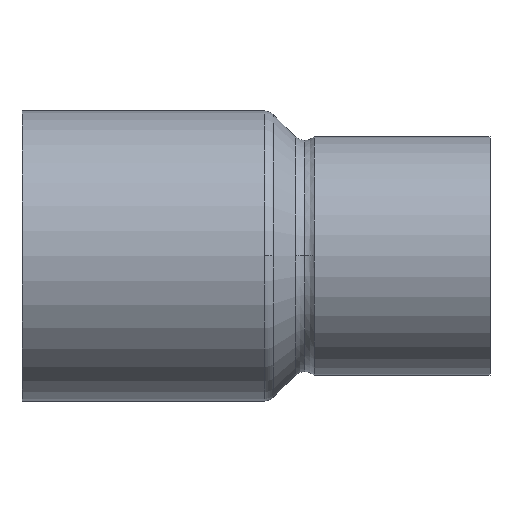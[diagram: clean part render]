
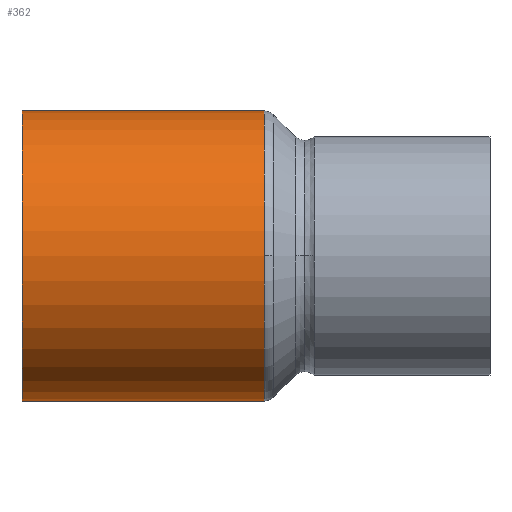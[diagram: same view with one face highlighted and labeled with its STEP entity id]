
A CAD part, top view. The second image highlights one B-rep face of the part: STEP entity #362.
In plain terms, the highlighted cylindrical face has radius 11 mm (diameter 22 mm), a partial arc.
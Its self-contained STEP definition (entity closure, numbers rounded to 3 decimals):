
#312=CARTESIAN_POINT('',(9.187,0.0,0.0));
#313=DIRECTION('',(1.0,0.0,0.0));
#314=DIRECTION('',(0.0,1.0,0.0));
#315=AXIS2_PLACEMENT_3D('',#312,#313,#314);
#316=CYLINDRICAL_SURFACE('',#315,11.0);
#317=CARTESIAN_POINT('',(0.,11.0,0.0));
#318=VERTEX_POINT('',#317);
#319=CARTESIAN_POINT('',(18.373,11.,0.0));
#320=VERTEX_POINT('',#319);
#321=CARTESIAN_POINT('',(0.,11.0,0.0));
#322=DIRECTION('',(1.0,0.0,0.0));
#323=VECTOR('',#322,18.373);
#324=LINE('',#321,#323);
#325=EDGE_CURVE('',#318,#320,#324,.T.);
#326=ORIENTED_EDGE('',*,*,#325,.F.);
#327=CARTESIAN_POINT('',(0.0,-11.0,0.));
#328=VERTEX_POINT('',#327);
#329=CARTESIAN_POINT('',(0.,0.0,0.0));
#330=DIRECTION('',(1.0,0.0,0.0));
#331=DIRECTION('',(0.0,1.0,0.0));
#332=AXIS2_PLACEMENT_3D('',#329,#330,#331);
#333=CIRCLE('',#332,11.0);
#334=EDGE_CURVE('',#318,#328,#333,.T.);
#335=ORIENTED_EDGE('',*,*,#334,.T.);
#336=CARTESIAN_POINT('',(18.373,-11.,0.));
#337=VERTEX_POINT('',#336);
#338=CARTESIAN_POINT('',(18.373,-11.,0.));
#339=DIRECTION('',(-1.0,0.0,0.0));
#340=VECTOR('',#339,18.373);
#341=LINE('',#338,#340);
#342=EDGE_CURVE('',#337,#328,#341,.T.);
#343=ORIENTED_EDGE('',*,*,#342,.F.);
#344=CARTESIAN_POINT('',(18.373,0.,11.));
#345=VERTEX_POINT('',#344);
#346=CARTESIAN_POINT('',(18.373,0.0,0.0));
#347=DIRECTION('',(1.0,0.0,0.0));
#348=DIRECTION('',(0.0,1.0,0.0));
#349=AXIS2_PLACEMENT_3D('',#346,#347,#348);
#350=CIRCLE('',#349,11.);
#351=EDGE_CURVE('',#345,#337,#350,.T.);
#352=ORIENTED_EDGE('',*,*,#351,.F.);
#353=CARTESIAN_POINT('',(18.373,0.0,0.0));
#354=DIRECTION('',(1.0,0.0,0.0));
#355=DIRECTION('',(0.0,1.0,0.0));
#356=AXIS2_PLACEMENT_3D('',#353,#354,#355);
#357=CIRCLE('',#356,11.);
#358=EDGE_CURVE('',#320,#345,#357,.T.);
#359=ORIENTED_EDGE('',*,*,#358,.F.);
#360=EDGE_LOOP('',(#326,#335,#343,#352,#359));
#361=FACE_OUTER_BOUND('',#360,.T.);
#362=ADVANCED_FACE('',(#361),#316,.T.);
